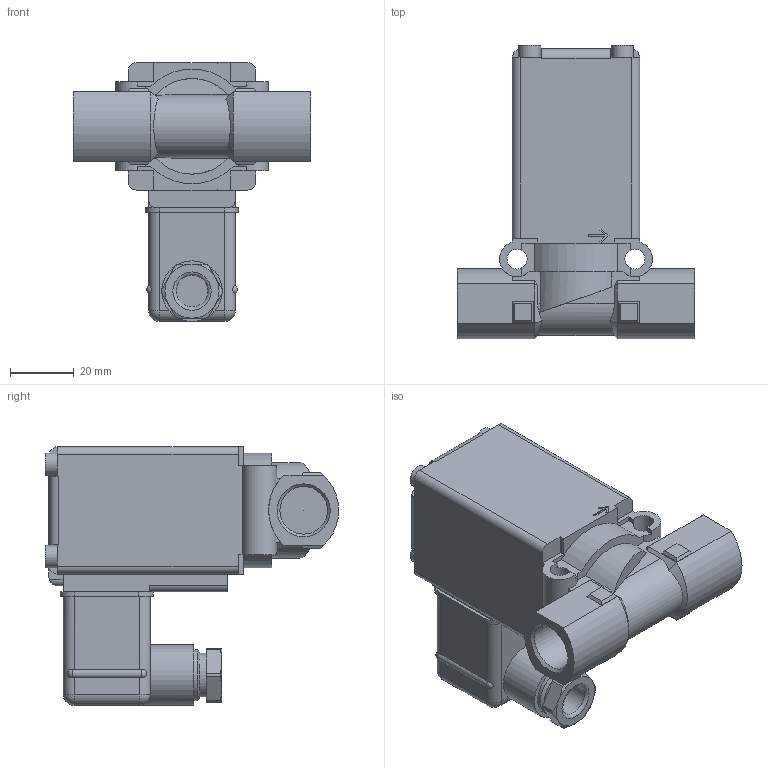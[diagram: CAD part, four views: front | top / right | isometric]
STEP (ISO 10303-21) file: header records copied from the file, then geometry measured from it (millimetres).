
FILE_DESCRIPTION(/* description */ ('STEP AP214'),/* implementation_level */ '2;1');
FILE_NAME(/* name */ '0256-145804-2_2-way_Solenoid_Valve',/* time_stamp */ '2024-08-05T16:08:22+02:00',/* author */ ('License CC BY-ND 4.0'),/* organization */ ('CADENAS'),/* preprocessor_version */ 'ST-DEVELOPER v19.3',/* originating_system */ 'PARTsolutions',/* authorisation */ ' ');
FILE_SCHEMA (('AUTOMOTIVE_DESIGN {1 0 10303 214 3 1 1}'));
Length unit declared in the file: millimetre
Products named in the file (1): 0256-145804-2/2-way Solenoid Valve
Bounding box: 74.5 x 92.1 x 81.2 mm (x, y, z)
Volume: 172382.5 mm3; surface area: 28160.7 mm2
Topology: 1 solids, 1 shells, 251 faces, 654 edges, 415 vertices
Faces by surface type: plane 162, cylinder 64, cone 16, sphere 8, torus 1
Full cylindrical faces by diameter (mm): 0.2 x1, 6.3 x2, 7 x5, 10 x1, 13.7 x1, 14.95 x2, 16 x1, 19 x1
Entity records: 9391 total; most frequent: CARTESIAN_POINT 1482, DIRECTION 1264, ORIENTED_EDGE 1262, EDGE_CURVE 631, AXIS2_PLACEMENT_3D 427, VERTEX_POINT 415, LINE 410, VECTOR 410
